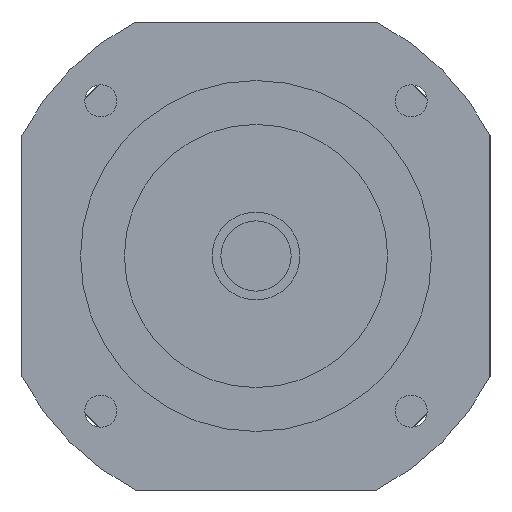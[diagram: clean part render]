
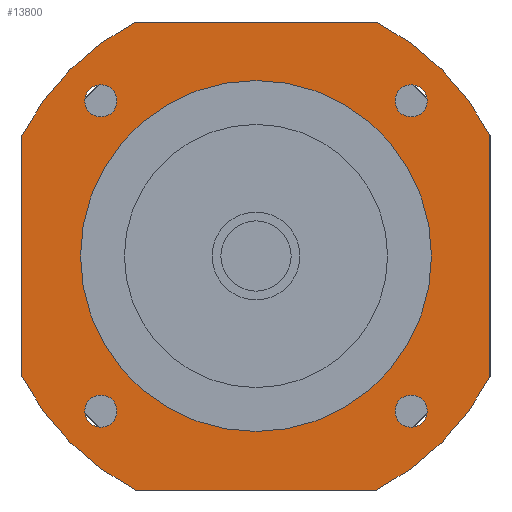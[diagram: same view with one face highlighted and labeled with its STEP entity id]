
A CAD part, left-side view. The second image highlights one B-rep face of the part: STEP entity #13800.
In plain terms, the highlighted planar face has unit normal (-1, 0, 0) as drawn and (0, 0, -1) by its records, which use the part's own axes.
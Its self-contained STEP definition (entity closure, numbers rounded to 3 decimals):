
#8640=CARTESIAN_POINT('',(40.,-20.616,-42.2));
#8650=VERTEX_POINT('',#8640);
#8700=CARTESIAN_POINT('',(0.,0.,
-42.2));
#8710=DIRECTION('',(0.,0.,-1.));
#8720=DIRECTION('',(1.,0.,0.));
#8730=AXIS2_PLACEMENT_3D('',#8700,#8710,#8720);
#8740=CIRCLE('',#8730,45.);
#8750=CARTESIAN_POINT('',(20.616,-40.,-42.2));
#8760=VERTEX_POINT('',#8750);
#8770=EDGE_CURVE('',#8650,#8760,#8740,.T.);
#9060=CARTESIAN_POINT('',(-20.616,-40.,-42.2));
#9070=VERTEX_POINT('',#9060);
#9120=CARTESIAN_POINT('',(0.,0.,
-42.2));
#9130=DIRECTION('',(0.,0.,-1.));
#9140=DIRECTION('',(1.,0.,0.));
#9150=AXIS2_PLACEMENT_3D('',#9120,#9130,#9140);
#9160=CIRCLE('',#9150,45.);
#9170=CARTESIAN_POINT('',(-40.,-20.616,-42.2));
#9180=VERTEX_POINT('',#9170);
#9190=EDGE_CURVE('',#9070,#9180,#9160,.T.);
#12330=CARTESIAN_POINT('',(23.767,-26.517,-42.2));
#12340=VERTEX_POINT('',#12330);
#12370=CARTESIAN_POINT('',(26.517,-26.517,-42.2));
#12380=DIRECTION('',(0.,0.,-1.));
#12390=DIRECTION('',(1.,0.,0.));
#12400=AXIS2_PLACEMENT_3D('',#12370,#12380,#12390);
#12410=CIRCLE('',#12400,2.75);
#12420=CARTESIAN_POINT('',(29.267,-26.517,-42.2));
#12430=VERTEX_POINT('',#12420);
#12440=EDGE_CURVE('',#12430,#12340,#12410,.T.);
#12560=CARTESIAN_POINT('',(40.,40.,-42.2));
#12570=DIRECTION('',(0.,0.,-1.));
#12580=DIRECTION('',(1.,0.,0.));
#12590=AXIS2_PLACEMENT_3D('',#12560,#12570,#12580);
#12600=PLANE('',#12590);
#12610=CARTESIAN_POINT('',(-26.517,-26.517,-42.2));
#12620=DIRECTION('',(0.,0.,-1.));
#12630=DIRECTION('',(0.,-1.,0.));
#12640=AXIS2_PLACEMENT_3D('',#12610,#12620,#12630);
#12650=CIRCLE('',#12640,2.75);
#12660=CARTESIAN_POINT('',(-26.517,-29.267,-42.2));
#12670=VERTEX_POINT('',#12660);
#12680=CARTESIAN_POINT('',(-26.517,-23.767,-42.2));
#12690=VERTEX_POINT('',#12680);
#12700=EDGE_CURVE('',#12670,#12690,#12650,.T.);
#12710=ORIENTED_EDGE('',*,*,#12700,.F.);
#12720=EDGE_CURVE('',#12690,#12670,#12650,.T.);
#12730=ORIENTED_EDGE('',*,*,#12720,.F.);
#12740=EDGE_LOOP('',(#12730,#12710));
#12750=FACE_BOUND('',#12740,.T.);
#12760=CARTESIAN_POINT('',(-26.517,26.517,-42.2));
#12770=DIRECTION('',(0.,0.,-1.));
#12780=DIRECTION('',(-1.,0.,0.));
#12790=AXIS2_PLACEMENT_3D('',#12760,#12770,#12780);
#12800=CIRCLE('',#12790,2.75);
#12810=CARTESIAN_POINT('',(-29.267,26.517,-42.2));
#12820=VERTEX_POINT('',#12810);
#12830=CARTESIAN_POINT('',(-23.767,26.517,-42.2));
#12840=VERTEX_POINT('',#12830);
#12850=EDGE_CURVE('',#12820,#12840,#12800,.T.);
#12860=ORIENTED_EDGE('',*,*,#12850,.F.);
#12870=EDGE_CURVE('',#12840,#12820,#12800,.T.);
#12880=ORIENTED_EDGE('',*,*,#12870,.F.);
#12890=EDGE_LOOP('',(#12880,#12860));
#12900=FACE_BOUND('',#12890,.T.);
#12910=CARTESIAN_POINT('',(26.517,26.517,-42.2));
#12920=DIRECTION('',(0.,0.,-1.));
#12930=DIRECTION('',(0.,1.,0.));
#12940=AXIS2_PLACEMENT_3D('',#12910,#12920,#12930);
#12950=CIRCLE('',#12940,2.75);
#12960=CARTESIAN_POINT('',(26.517,29.267,-42.2));
#12970=VERTEX_POINT('',#12960);
#12980=CARTESIAN_POINT('',(26.517,23.767,-42.2));
#12990=VERTEX_POINT('',#12980);
#13000=EDGE_CURVE('',#12970,#12990,#12950,.T.);
#13010=ORIENTED_EDGE('',*,*,#13000,.F.);
#13020=EDGE_CURVE('',#12990,#12970,#12950,.T.);
#13030=ORIENTED_EDGE('',*,*,#13020,.F.);
#13040=EDGE_LOOP('',(#13030,#13010));
#13050=FACE_BOUND('',#13040,.T.);
#13060=CARTESIAN_POINT('',(0.,0.,
-42.2));
#13070=DIRECTION('',(0.,0.,1.));
#13080=DIRECTION('',(0.,1.,0.));
#13090=AXIS2_PLACEMENT_3D('',#13060,#13070,#13080);
#13100=CIRCLE('',#13090,30.);
#13110=CARTESIAN_POINT('',(-30.,0.,-42.2));
#13120=VERTEX_POINT('',#13110);
#13130=CARTESIAN_POINT('',(30.,0.,-42.2));
#13140=VERTEX_POINT('',#13130);
#13150=EDGE_CURVE('',#13120,#13140,#13100,.T.);
#13160=ORIENTED_EDGE('',*,*,#13150,.T.);
#13170=CARTESIAN_POINT('',(0.,30.,-42.2));
#13180=VERTEX_POINT('',#13170);
#13190=EDGE_CURVE('',#13180,#13120,#13100,.T.);
#13200=ORIENTED_EDGE('',*,*,#13190,.T.);
#13210=EDGE_CURVE('',#13140,#13180,#13100,.T.);
#13220=ORIENTED_EDGE('',*,*,#13210,.T.);
#13230=EDGE_LOOP('',(#13220,#13200,#13160));
#13240=FACE_BOUND('',#13230,.T.);
#13250=CARTESIAN_POINT('',(-40.,40.,-42.2));
#13260=DIRECTION('',(1.,0.,0.));
#13270=VECTOR('',#13260,1000.);
#13280=LINE('',#13250,#13270);
#13290=CARTESIAN_POINT('',(-20.616,40.,-42.2));
#13300=VERTEX_POINT('',#13290);
#13310=CARTESIAN_POINT('',(20.616,40.,-42.2));
#13320=VERTEX_POINT('',#13310);
#13330=EDGE_CURVE('',#13300,#13320,#13280,.T.);
#13340=ORIENTED_EDGE('',*,*,#13330,.T.);
#13350=CARTESIAN_POINT('',(0.,0.,
-42.2));
#13360=DIRECTION('',(0.,0.,-1.));
#13370=DIRECTION('',(1.,0.,0.));
#13380=AXIS2_PLACEMENT_3D('',#13350,#13360,#13370);
#13390=CIRCLE('',#13380,45.);
#13400=CARTESIAN_POINT('',(-40.,20.616,-42.2));
#13410=VERTEX_POINT('',#13400);
#13420=EDGE_CURVE('',#13410,#13300,#13390,.T.);
#13430=ORIENTED_EDGE('',*,*,#13420,.T.);
#13440=CARTESIAN_POINT('',(-40.,-40.,-42.2));
#13450=DIRECTION('',(0.,1.,0.));
#13460=VECTOR('',#13450,1000.);
#13470=LINE('',#13440,#13460);
#13480=EDGE_CURVE('',#9180,#13410,#13470,.T.);
#13490=ORIENTED_EDGE('',*,*,#13480,.T.);
#13500=ORIENTED_EDGE('',*,*,#9190,.T.);
#13510=CARTESIAN_POINT('',(40.,-40.,-42.2));
#13520=DIRECTION('',(-1.,0.,0.));
#13530=VECTOR('',#13520,1000.);
#13540=LINE('',#13510,#13530);
#13550=EDGE_CURVE('',#8760,#9070,#13540,.T.);
#13560=ORIENTED_EDGE('',*,*,#13550,.T.);
#13570=ORIENTED_EDGE('',*,*,#8770,.T.);
#13580=CARTESIAN_POINT('',(40.,40.,-42.2));
#13590=DIRECTION('',(0.,-1.,0.));
#13600=VECTOR('',#13590,1000.);
#13610=LINE('',#13580,#13600);
#13620=CARTESIAN_POINT('',(40.,20.616,-42.2));
#13630=VERTEX_POINT('',#13620);
#13640=EDGE_CURVE('',#13630,#8650,#13610,.T.);
#13650=ORIENTED_EDGE('',*,*,#13640,.T.);
#13660=CARTESIAN_POINT('',(0.,0.,
-42.2));
#13670=DIRECTION('',(0.,0.,-1.));
#13680=DIRECTION('',(1.,0.,0.));
#13690=AXIS2_PLACEMENT_3D('',#13660,#13670,#13680);
#13700=CIRCLE('',#13690,45.);
#13710=EDGE_CURVE('',#13320,#13630,#13700,.T.);
#13720=ORIENTED_EDGE('',*,*,#13710,.T.);
#13730=EDGE_LOOP('',(#13720,#13650,#13570,#13560,#13500,#13490,#13430,
#13340));
#13740=FACE_OUTER_BOUND('',#13730,.T.);
#13750=ORIENTED_EDGE('',*,*,#12440,.F.);
#13760=EDGE_CURVE('',#12340,#12430,#12410,.T.);
#13770=ORIENTED_EDGE('',*,*,#13760,.F.);
#13780=EDGE_LOOP('',(#13770,#13750));
#13790=FACE_BOUND('',#13780,.T.);
#13800=ADVANCED_FACE('',(#12750,#12900,#13050,#13240,#13740,#13790),
#12600,.T.);
